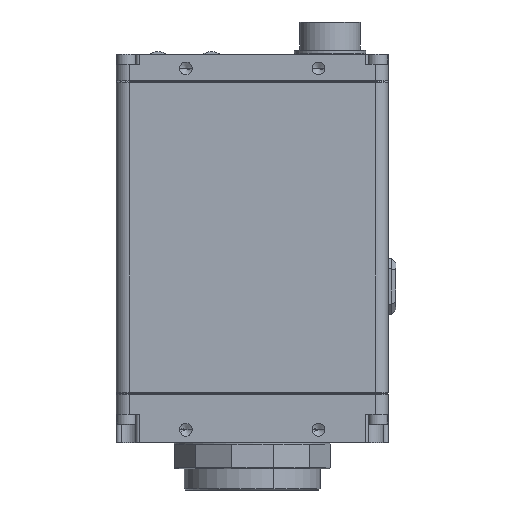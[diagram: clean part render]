
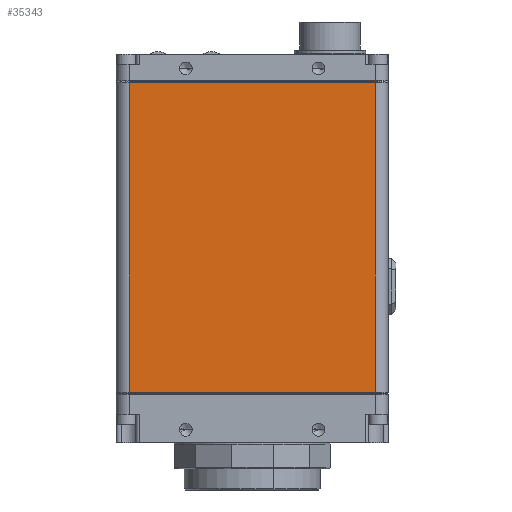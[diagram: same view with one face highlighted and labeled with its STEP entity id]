
A CAD part, front view. The second image highlights one B-rep face of the part: STEP entity #35343.
In plain terms, the highlighted planar face has unit normal (0, -1, 0) as drawn and (0, 1, 0) by its records, which use the part's own axes.
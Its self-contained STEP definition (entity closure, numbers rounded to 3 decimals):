
#710 = VERTEX_POINT ( 'NONE', #62998 ) ;
#21111 = VECTOR ( 'NONE', #112966, 1000. ) ;
#34173 = LINE ( 'NONE', #44702, #182460 ) ;
#35343 = ADVANCED_FACE ( 'NONE', ( #148142 ), #165738, .F. ) ;
#43645 = DIRECTION ( 'NONE',  ( 0., 0., 1. ) ) ;
#44702 = CARTESIAN_POINT ( 'NONE',  ( 24.13, 16.51, 61.214 ) ) ;
#56275 = VERTEX_POINT ( 'NONE', #96434 ) ;
#56605 = DIRECTION ( 'NONE',  ( 1., 0., 0. ) ) ;
#56649 = CARTESIAN_POINT ( 'NONE',  ( -26.67, 16.51, 0.254 ) ) ;
#62998 = CARTESIAN_POINT ( 'NONE',  ( -24.13, 16.51, 60.96 ) ) ;
#71679 = LINE ( 'NONE', #132045, #111548 ) ;
#78663 = ORIENTED_EDGE ( 'NONE', *, *, #189442, .F. ) ;
#93045 = EDGE_LOOP ( 'NONE', ( #127968, #106067, #181046, #78663 ) ) ;
#96434 = CARTESIAN_POINT ( 'NONE',  ( 24.13, 16.51, 60.96 ) ) ;
#99501 = VERTEX_POINT ( 'NONE', #105084 ) ;
#105084 = CARTESIAN_POINT ( 'NONE',  ( 24.13, 16.51, 0.254 ) ) ;
#106067 = ORIENTED_EDGE ( 'NONE', *, *, #143423, .F. ) ;
#111548 = VECTOR ( 'NONE', #135051, 1000. ) ;
#112966 = DIRECTION ( 'NONE',  ( -1., 0., 0. ) ) ;
#113228 = CARTESIAN_POINT ( 'NONE',  ( -26.67, 16.51, 60.96 ) ) ;
#114650 = EDGE_CURVE ( 'NONE', #56275, #710, #179371, .T. ) ;
#122215 = CARTESIAN_POINT ( 'NONE',  ( -24.13, 16.51, 0.254 ) ) ;
#127545 = VERTEX_POINT ( 'NONE', #122215 ) ;
#127968 = ORIENTED_EDGE ( 'NONE', *, *, #163976, .F. ) ;
#132045 = CARTESIAN_POINT ( 'NONE',  ( -24.13, 16.51, 61.214 ) ) ;
#133183 = VECTOR ( 'NONE', #56605, 1000. ) ;
#135051 = DIRECTION ( 'NONE',  ( 0., 0., -1. ) ) ;
#143423 = EDGE_CURVE ( 'NONE', #710, #127545, #71679, .T. ) ;
#148142 = FACE_OUTER_BOUND ( 'NONE', #93045, .T. ) ;
#151704 = AXIS2_PLACEMENT_3D ( 'NONE', #164458, #164305, #164269 ) ;
#163976 = EDGE_CURVE ( 'NONE', #127545, #99501, #191064, .T. ) ;
#164269 = DIRECTION ( 'NONE',  ( 1., 0., 0. ) ) ;
#164305 = DIRECTION ( 'NONE',  ( 0., -1., 0. ) ) ;
#164458 = CARTESIAN_POINT ( 'NONE',  ( -26.67, 16.51, 61.214 ) ) ;
#165738 = PLANE ( 'NONE',  #151704 ) ;
#179371 = LINE ( 'NONE', #113228, #21111 ) ;
#181046 = ORIENTED_EDGE ( 'NONE', *, *, #114650, .F. ) ;
#182460 = VECTOR ( 'NONE', #43645, 1000. ) ;
#189442 = EDGE_CURVE ( 'NONE', #99501, #56275, #34173, .T. ) ;
#191064 = LINE ( 'NONE', #56649, #133183 ) ;
